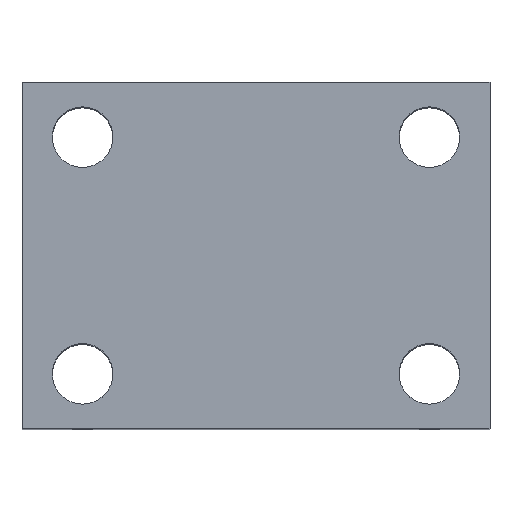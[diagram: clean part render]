
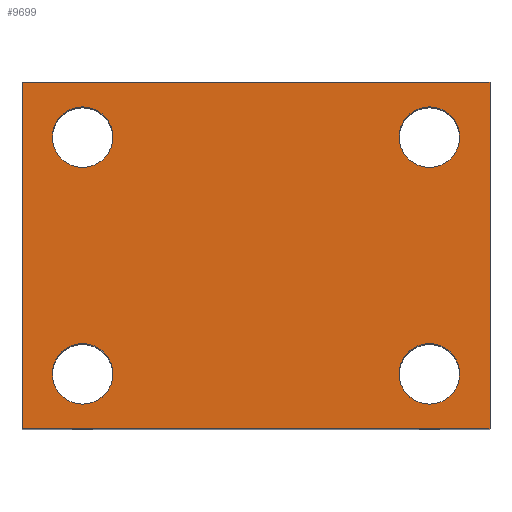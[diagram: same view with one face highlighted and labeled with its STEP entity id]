
A CAD part, top view. The second image highlights one B-rep face of the part: STEP entity #9699.
In plain terms, the highlighted planar face has unit normal (0, 0, 1).
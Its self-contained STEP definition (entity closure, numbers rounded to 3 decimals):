
#222 = EDGE_LOOP ( 'NONE', ( #7046, #14649 ) ) ;
#517 = EDGE_CURVE ( 'NONE', #10332, #6115, #8950, .T. ) ;
#753 = VECTOR ( 'NONE', #9477, 1000. ) ;
#846 = ORIENTED_EDGE ( 'NONE', *, *, #12288, .F. ) ;
#959 = CARTESIAN_POINT ( 'NONE',  ( -26., 53., 47.5 ) ) ;
#1104 = DIRECTION ( 'NONE',  ( 0., 0., -1. ) ) ;
#1360 = CARTESIAN_POINT ( 'NONE',  ( 31.5, 53., 47.5 ) ) ;
#1413 = CARTESIAN_POINT ( 'NONE',  ( -42.5, 0., 47.5 ) ) ;
#1433 = DIRECTION ( 'NONE',  ( 1., 0., 0. ) ) ;
#1604 = ORIENTED_EDGE ( 'NONE', *, *, #2365, .T. ) ;
#1823 = AXIS2_PLACEMENT_3D ( 'NONE', #6959, #16783, #8338 ) ;
#1973 = DIRECTION ( 'NONE',  ( 0., 0., -1. ) ) ;
#2062 = DIRECTION ( 'NONE',  ( 0., 0., -1. ) ) ;
#2342 = CARTESIAN_POINT ( 'NONE',  ( -31.5, 10., 47.5 ) ) ;
#2365 = EDGE_CURVE ( 'NONE', #4399, #3877, #12726, .T. ) ;
#2794 = LINE ( 'NONE', #13760, #17256 ) ;
#2795 = DIRECTION ( 'NONE',  ( -1., 0., 0. ) ) ;
#2938 = EDGE_LOOP ( 'NONE', ( #12656, #12296 ) ) ;
#3266 = FACE_BOUND ( 'NONE', #222, .T. ) ;
#3401 = CIRCLE ( 'NONE', #1823, 5.5 ) ;
#3488 = VERTEX_POINT ( 'NONE', #11046 ) ;
#3493 = VERTEX_POINT ( 'NONE', #12396 ) ;
#3663 = LINE ( 'NONE', #3834, #753 ) ;
#3781 = DIRECTION ( 'NONE',  ( -1., 0., 0. ) ) ;
#3834 = CARTESIAN_POINT ( 'NONE',  ( 42.5, 63., 47.5 ) ) ;
#3847 = EDGE_CURVE ( 'NONE', #12250, #3488, #5069, .T. ) ;
#3877 = VERTEX_POINT ( 'NONE', #16578 ) ;
#3949 = VERTEX_POINT ( 'NONE', #11144 ) ;
#4399 = VERTEX_POINT ( 'NONE', #12543 ) ;
#4541 = ORIENTED_EDGE ( 'NONE', *, *, #517, .T. ) ;
#4648 = DIRECTION ( 'NONE',  ( -1., 0., 0. ) ) ;
#4825 = CIRCLE ( 'NONE', #16577, 5.5 ) ;
#4994 = AXIS2_PLACEMENT_3D ( 'NONE', #10189, #13006, #4648 ) ;
#5069 = CIRCLE ( 'NONE', #11602, 5.5 ) ;
#5243 = EDGE_CURVE ( 'NONE', #3949, #3493, #4825, .T. ) ;
#5872 = CARTESIAN_POINT ( 'NONE',  ( 42.5, 0., 47.5 ) ) ;
#6115 = VERTEX_POINT ( 'NONE', #5872 ) ;
#6119 = FACE_OUTER_BOUND ( 'NONE', #12953, .T. ) ;
#6170 = AXIS2_PLACEMENT_3D ( 'NONE', #10369, #1973, #11764 ) ;
#6187 = VERTEX_POINT ( 'NONE', #11696 ) ;
#6316 = EDGE_CURVE ( 'NONE', #17718, #8571, #14662, .T. ) ;
#6701 = CARTESIAN_POINT ( 'NONE',  ( 31.5, 53., 47.5 ) ) ;
#6959 = CARTESIAN_POINT ( 'NONE',  ( 31.5, 10., 47.5 ) ) ;
#7046 = ORIENTED_EDGE ( 'NONE', *, *, #5243, .T. ) ;
#7047 = CARTESIAN_POINT ( 'NONE',  ( -42.5, 63., 47.5 ) ) ;
#7073 = EDGE_CURVE ( 'NONE', #12443, #10332, #13086, .T. ) ;
#7130 = DIRECTION ( 'NONE',  ( 0., 0., -1. ) ) ;
#7176 = CIRCLE ( 'NONE', #17979, 5.5 ) ;
#7353 = EDGE_CURVE ( 'NONE', #8571, #17718, #7176, .T. ) ;
#7497 = CARTESIAN_POINT ( 'NONE',  ( 37., 53., 47.5 ) ) ;
#7903 = EDGE_CURVE ( 'NONE', #12443, #6187, #2794, .T. ) ;
#8066 = DIRECTION ( 'NONE',  ( -1., 0., 0. ) ) ;
#8338 = DIRECTION ( 'NONE',  ( -1., 0., 0. ) ) ;
#8571 = VERTEX_POINT ( 'NONE', #7497 ) ;
#8824 = CARTESIAN_POINT ( 'NONE',  ( -42.5, 63., 47.5 ) ) ;
#8950 = LINE ( 'NONE', #1413, #16892 ) ;
#9291 = ORIENTED_EDGE ( 'NONE', *, *, #10932, .T. ) ;
#9337 = CARTESIAN_POINT ( 'NONE',  ( -42.5, 0., 47.5 ) ) ;
#9339 = VECTOR ( 'NONE', #10253, 1000. ) ;
#9477 = DIRECTION ( 'NONE',  ( 0., -1., 0. ) ) ;
#9492 = CARTESIAN_POINT ( 'NONE',  ( -31.5, 53., 47.5 ) ) ;
#9699 = ADVANCED_FACE ( 'NONE', ( #13528, #3266, #17283, #9796, #6119 ), #11585, .F. ) ;
#9708 = ORIENTED_EDGE ( 'NONE', *, *, #7903, .F. ) ;
#9796 = FACE_BOUND ( 'NONE', #2938, .T. ) ;
#9918 = AXIS2_PLACEMENT_3D ( 'NONE', #2342, #12130, #3781 ) ;
#10189 = CARTESIAN_POINT ( 'NONE',  ( -42.5, 63., 47.5 ) ) ;
#10253 = DIRECTION ( 'NONE',  ( 0., -1., 0. ) ) ;
#10332 = VERTEX_POINT ( 'NONE', #9337 ) ;
#10369 = CARTESIAN_POINT ( 'NONE',  ( -31.5, 53., 47.5 ) ) ;
#10435 = CARTESIAN_POINT ( 'NONE',  ( 31.5, 10., 47.5 ) ) ;
#10898 = DIRECTION ( 'NONE',  ( -1., 0., 0. ) ) ;
#10932 = EDGE_CURVE ( 'NONE', #3488, #12250, #14187, .T. ) ;
#11046 = CARTESIAN_POINT ( 'NONE',  ( -37., 53., 47.5 ) ) ;
#11144 = CARTESIAN_POINT ( 'NONE',  ( -37., 10., 47.5 ) ) ;
#11148 = DIRECTION ( 'NONE',  ( 0., 0., -1. ) ) ;
#11585 = PLANE ( 'NONE',  #4994 ) ;
#11602 = AXIS2_PLACEMENT_3D ( 'NONE', #9492, #1104, #10898 ) ;
#11676 = CIRCLE ( 'NONE', #9918, 5.5 ) ;
#11696 = CARTESIAN_POINT ( 'NONE',  ( 42.5, 63., 47.5 ) ) ;
#11764 = DIRECTION ( 'NONE',  ( -1., 0., 0. ) ) ;
#11834 = ORIENTED_EDGE ( 'NONE', *, *, #14865, .T. ) ;
#11837 = DIRECTION ( 'NONE',  ( -1., 0., 0. ) ) ;
#12130 = DIRECTION ( 'NONE',  ( 0., 0., -1. ) ) ;
#12250 = VERTEX_POINT ( 'NONE', #959 ) ;
#12288 = EDGE_CURVE ( 'NONE', #6187, #6115, #3663, .T. ) ;
#12296 = ORIENTED_EDGE ( 'NONE', *, *, #7353, .T. ) ;
#12396 = CARTESIAN_POINT ( 'NONE',  ( -26., 10., 47.5 ) ) ;
#12443 = VERTEX_POINT ( 'NONE', #7047 ) ;
#12543 = CARTESIAN_POINT ( 'NONE',  ( 37., 10., 47.5 ) ) ;
#12656 = ORIENTED_EDGE ( 'NONE', *, *, #6316, .T. ) ;
#12726 = CIRCLE ( 'NONE', #14565, 5.5 ) ;
#12941 = ORIENTED_EDGE ( 'NONE', *, *, #3847, .T. ) ;
#12953 = EDGE_LOOP ( 'NONE', ( #4541, #846, #9708, #16797 ) ) ;
#13006 = DIRECTION ( 'NONE',  ( 0., 0., -1. ) ) ;
#13086 = LINE ( 'NONE', #8824, #9339 ) ;
#13362 = EDGE_LOOP ( 'NONE', ( #11834, #1604 ) ) ;
#13528 = FACE_BOUND ( 'NONE', #14340, .T. ) ;
#13661 = CARTESIAN_POINT ( 'NONE',  ( 26., 53., 47.5 ) ) ;
#13760 = CARTESIAN_POINT ( 'NONE',  ( -42.5, 63., 47.5 ) ) ;
#14187 = CIRCLE ( 'NONE', #6170, 5.5 ) ;
#14340 = EDGE_LOOP ( 'NONE', ( #9291, #12941 ) ) ;
#14565 = AXIS2_PLACEMENT_3D ( 'NONE', #10435, #2062, #11837 ) ;
#14649 = ORIENTED_EDGE ( 'NONE', *, *, #15642, .T. ) ;
#14662 = CIRCLE ( 'NONE', #16811, 5.5 ) ;
#14865 = EDGE_CURVE ( 'NONE', #3877, #4399, #3401, .T. ) ;
#15325 = DIRECTION ( 'NONE',  ( 1., 0., 0. ) ) ;
#15551 = CARTESIAN_POINT ( 'NONE',  ( -31.5, 10., 47.5 ) ) ;
#15642 = EDGE_CURVE ( 'NONE', #3493, #3949, #11676, .T. ) ;
#16511 = DIRECTION ( 'NONE',  ( 0., 0., -1. ) ) ;
#16577 = AXIS2_PLACEMENT_3D ( 'NONE', #15551, #7130, #16941 ) ;
#16578 = CARTESIAN_POINT ( 'NONE',  ( 26., 10., 47.5 ) ) ;
#16783 = DIRECTION ( 'NONE',  ( 0., 0., -1. ) ) ;
#16797 = ORIENTED_EDGE ( 'NONE', *, *, #7073, .T. ) ;
#16811 = AXIS2_PLACEMENT_3D ( 'NONE', #6701, #16511, #8066 ) ;
#16892 = VECTOR ( 'NONE', #1433, 1000. ) ;
#16941 = DIRECTION ( 'NONE',  ( -1., 0., 0. ) ) ;
#17256 = VECTOR ( 'NONE', #15325, 1000. ) ;
#17283 = FACE_BOUND ( 'NONE', #13362, .T. ) ;
#17718 = VERTEX_POINT ( 'NONE', #13661 ) ;
#17979 = AXIS2_PLACEMENT_3D ( 'NONE', #1360, #11148, #2795 ) ;
